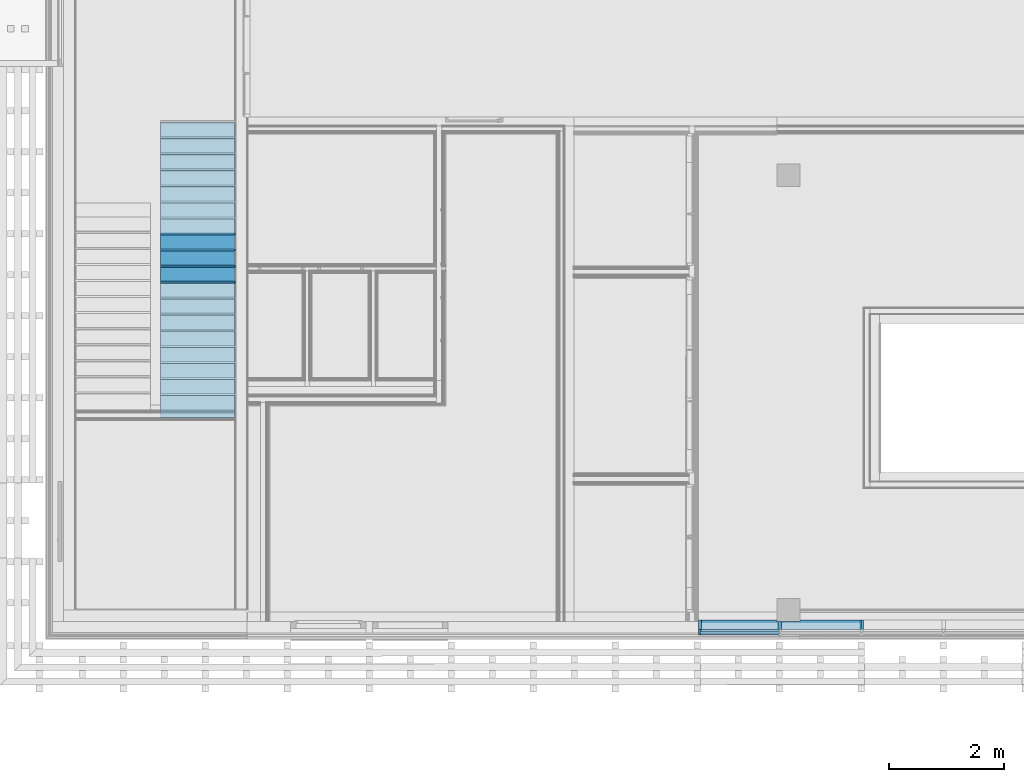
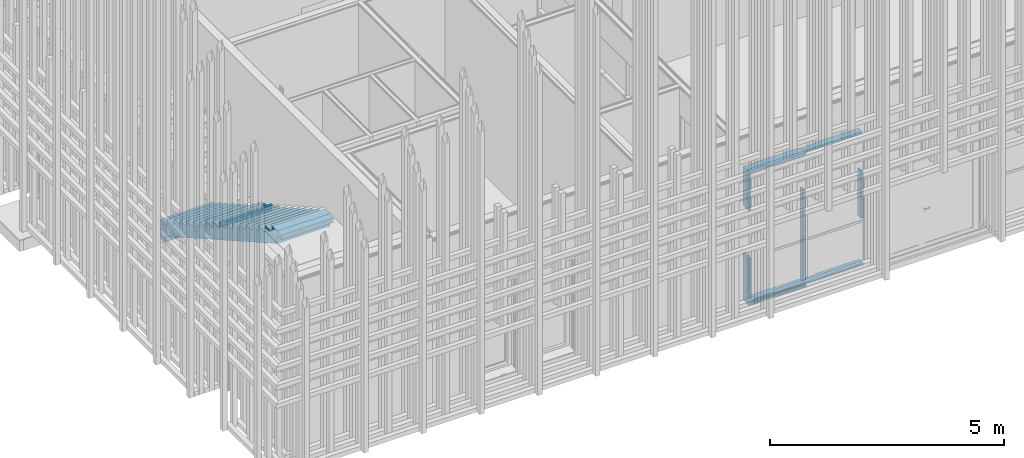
# One storey, part 77 of 260: 21 members, 3 elements without a shape of their own.
"""IFC2X3 building model written with IfcOpenShell, lengths in millimetres."""

from ifc_helpers import new_model, entity, si_unit, converted_unit, derived_unit, money_unit, direction, frame, origin_with_axes, place, context, subcontext, project, spatial, faceted_brep, material, type_object, element, aggregate, save


model = new_model("IFC2X3")

# Units and contexts
model_context = context("Model", 3, precision=0.01, world=origin_with_axes(), true_north=direction((0.0, 1.0)))
body_context = subcontext(model_context, "Body", "Model", "MODEL_VIEW")
ifc_project = project(units=[si_unit("LENGTHUNIT", "METRE", prefix="MILLI"), si_unit("AREAUNIT", "SQUARE_METRE"), si_unit("VOLUMEUNIT", "CUBIC_METRE"), converted_unit("PLANEANGLEUNIT", "DEGREE", entity("IfcPlaneAngleMeasure", 0.0174532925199), si_unit("PLANEANGLEUNIT", "RADIAN"), dimensions=[0, 0, 0, 0, 0, 0, 0]), money_unit("EUR"), converted_unit("TIMEUNIT", "Year", entity("IfcTimeMeasure", 31556926.0), si_unit("TIMEUNIT", "SECOND"), dimensions=[0, 0, 1, 0, 0, 0, 0]), si_unit("MASSUNIT", "GRAM", prefix="KILO"), si_unit("THERMODYNAMICTEMPERATUREUNIT", "DEGREE_CELSIUS"), si_unit("LUMINOUSINTENSITYUNIT", "LUMEN"), si_unit("ENERGYUNIT", "JOULE", prefix="MEGA"), derived_unit("THERMALCONDUCTANCEUNIT", [(si_unit("POWERUNIT", "WATT"), 1), (si_unit("LENGTHUNIT", "METRE"), -1), (si_unit("THERMODYNAMICTEMPERATUREUNIT", "KELVIN"), -1)]), derived_unit("SPECIFICHEATCAPACITYUNIT", [(si_unit("ENERGYUNIT", "JOULE"), 1), (si_unit("MASSUNIT", "GRAM", prefix="KILO"), -1), (si_unit("THERMODYNAMICTEMPERATUREUNIT", "KELVIN"), -1)]), derived_unit("MASSDENSITYUNIT", [(si_unit("MASSUNIT", "GRAM", prefix="KILO"), 1), (si_unit("VOLUMEUNIT", "CUBIC_METRE"), -1)])], contexts=[model_context])

# Site, building, storey
site_placement = place(None, origin_with_axes())
site = spatial("IfcSite", under=ifc_project, at=site_placement, Name="Kolde pst 67a", CompositionType="ELEMENT")
building_placement = place(site_placement, origin_with_axes())
building = spatial("IfcBuilding", under=site, at=building_placement, Name="Riigigümnaasium", CompositionType="ELEMENT")
storey_placement = place(building_placement, origin_with_axes())
storey = spatial("IfcBuildingStorey", under=building, at=storey_placement, Name="1. korrus", CompositionType="ELEMENT", Elevation=0.0)

# Stair, members
stair_placement = place(storey_placement, frame((1729.94042366, 56770.1026666, 0.0), z_axis=(0.0, 0.0, 1.0), x_axis=(1.0, 0.0, 0.0)))
stair = element("IfcStair", 1, at=stair_placement, inside=storey, Name="TREPP", ShapeType="NOTDEFINED")
ifc_material_1 = material(Name="_KANDETARIND - raudbetoon C25/30 vastavalt EK osale")
member_type_1 = type_object("IfcMemberType", Name="IfcMember", PredefinedType="USERDEFINED")
member_1_placement = place(stair_placement, origin_with_axes())
member_1 = element("IfcMember", 2, at=member_1_placement, type_object=member_type_1, material=ifc_material_1, Name="TT KONSTRUKTSIOON - 012", ObjectType="Stair Structure", context=body_context, shape_type="Brep", body=[
    faceted_brep([(1300.0, -5180.0, 2705.0), (1300.0, -5020.0, 2705.0), (1300.0, -5020.0, 2509.35204489), (1300.0, -4946.66666667, 2467.8110396), (1300.0, -4853.33333333, 2414.94066923), (1300.0, -4760.0, 2362.07029886), (1300.0, -4666.66666667, 2309.19992849), (1300.0, -4573.33333333, 2256.32955812), (1300.0, -4480.0, 2203.45918775), (1300.0, -4386.66666667, 2150.58881738), (1300.0, -4293.33333333, 2097.71844701), (1300.0, -4200.0, 2044.84807664), (1300.0, -4106.66666667, 1991.97770627), (1300.0, -4013.33333333, 1939.1073359), (1300.0, -3920.0, 1886.23696552), (1300.0, -3826.66666667, 1833.36659515), (1300.0, -3733.33333333, 1780.49622478), (1300.0, -3640.0, 1727.62585441), (1300.0, -3546.66666667, 1674.75548404), (1300.0, -3453.33333333, 1621.88511367), (1300.0, -3360.0, 1569.0147433), (1300.0, -3266.66666667, 1516.14437293), (1300.0, -3173.33333333, 1463.27400256), (1300.0, -3080.0, 1410.40363219), (1300.0, -2986.66666667, 1357.53326182), (1300.0, -2893.33333333, 1304.66289145), (1300.0, -2800.0, 1251.79252108), (1300.0, -2706.66666667, 1198.92215071), (1300.0, -2613.33333333, 1146.05178034), (1300.0, -2520.0, 1093.18140997), (1300.0, -2426.66666667, 1040.3110396), (1300.0, -2333.33333333, 987.440669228), (1300.0, -2240.0, 934.570298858), (1300.0, -2146.66666667, 881.699928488), (1300.0, -2053.33333333, 828.829558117), (1300.0, -1960.0, 775.959187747), (1300.0, -1866.66666667, 723.088817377), (1300.0, -1773.33333333, 670.218447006), (1300.0, -1680.0, 617.348076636), (1300.0, -1586.66666667, 564.477706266), (1300.0, -1493.33333333, 511.607335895), (1300.0, -1400.0, 458.736965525), (1300.0, -1306.66666667, 405.866595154), (1300.0, -1213.33333333, 352.996224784), (1300.0, -1120.0, 300.125854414), (1300.0, -1026.66666667, 247.255484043), (1300.0, -933.333333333, 194.385113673), (1300.0, -840.0, 141.514743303), (1300.0, -746.666666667, 88.6443729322), (1300.0, -653.333333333, 35.7740025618), (1300.0, -560.0, -17.0963678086), (1300.0, -466.666666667, -69.9667381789), (1300.0, -373.333333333, -122.837108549), (1300.0, -280.0, -175.70747892), (1300.0, -230.0, -204.030891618), (1300.0, -230.0, -360.0), (1300.0, -30.0, -360.0), (1300.0, -30.0, 128.611111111), (1300.0, -310.0, 128.611111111), (1300.0, -310.0, 287.222222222), (1300.0, -590.0, 287.222222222), (1300.0, -590.0, 445.833333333), (1300.0, -870.0, 445.833333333), (1300.0, -870.0, 604.444444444), (1300.0, -1150.0, 604.444444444), (1300.0, -1150.0, 763.055555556), (1300.0, -1430.0, 763.055555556), (1300.0, -1430.0, 921.666666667), (1300.0, -1710.0, 921.666666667), (1300.0, -1710.0, 1080.27777778), (1300.0, -1990.0, 1080.27777778), (1300.0, -1990.0, 1238.88888889), (1300.0, -2270.0, 1238.88888889), (1300.0, -2270.0, 1397.5), (1300.0, -2550.0, 1397.5), (1300.0, -2550.0, 1556.11111111), (1300.0, -2830.0, 1556.11111111), (1300.0, -2830.0, 1714.72222222), (1300.0, -3110.0, 1714.72222222), (1300.0, -3110.0, 1873.33333333), (1300.0, -3390.0, 1873.33333333), (1300.0, -3390.0, 2031.94444444), (1300.0, -3670.0, 2031.94444444), (1300.0, -3670.0, 2190.55555556), (1300.0, -3950.0, 2190.55555556), (1300.0, -3950.0, 2349.16666667), (1300.0, -4230.0, 2349.16666667), (1300.0, -4230.0, 2507.77777778), (1300.0, -4510.0, 2507.77777778), (1300.0, -4510.0, 2666.38888889), (1300.0, -4790.0, 2666.38888889), (1300.0, -4790.0, 2825.0), (1300.0, -5180.0, 2825.0), (0.0, -5020.0, 2705.0), (0.0, -5180.0, 2705.0), (0.0, -5020.0, 2509.35204489), (0.0, -4946.66666667, 2467.8110396), (0.0, -4853.33333333, 2414.94066923), (0.0, -4760.0, 2362.07029886), (0.0, -4666.66666667, 2309.19992849), (0.0, -4573.33333333, 2256.32955812), (0.0, -4480.0, 2203.45918775), (0.0, -4386.66666667, 2150.58881738), (0.0, -4293.33333333, 2097.71844701), (0.0, -4200.0, 2044.84807664), (0.0, -4106.66666667, 1991.97770627), (0.0, -4013.33333333, 1939.1073359), (0.0, -3920.0, 1886.23696552), (0.0, -3826.66666667, 1833.36659515), (0.0, -3733.33333333, 1780.49622478), (0.0, -3640.0, 1727.62585441), (0.0, -3546.66666667, 1674.75548404), (0.0, -3453.33333333, 1621.88511367), (0.0, -3360.0, 1569.0147433), (0.0, -3266.66666667, 1516.14437293), (0.0, -3173.33333333, 1463.27400256), (0.0, -3080.0, 1410.40363219), (0.0, -2986.66666667, 1357.53326182), (0.0, -2893.33333333, 1304.66289145), (0.0, -2800.0, 1251.79252108), (0.0, -2706.66666667, 1198.92215071), (0.0, -2613.33333333, 1146.05178034), (0.0, -2520.0, 1093.18140997), (0.0, -2426.66666667, 1040.3110396), (0.0, -2333.33333333, 987.440669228), (0.0, -2240.0, 934.570298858), (0.0, -2146.66666667, 881.699928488), (0.0, -2053.33333333, 828.829558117), (0.0, -1960.0, 775.959187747), (0.0, -1866.66666667, 723.088817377), (0.0, -1773.33333333, 670.218447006), (0.0, -1680.0, 617.348076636), (0.0, -1586.66666667, 564.477706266), (0.0, -1493.33333333, 511.607335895), (0.0, -1400.0, 458.736965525), (0.0, -1306.66666667, 405.866595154), (0.0, -1213.33333333, 352.996224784), (0.0, -1120.0, 300.125854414), (0.0, -1026.66666667, 247.255484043), (0.0, -933.333333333, 194.385113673), (0.0, -840.0, 141.514743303), (0.0, -746.666666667, 88.6443729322), (0.0, -653.333333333, 35.7740025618), (0.0, -560.0, -17.0963678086), (0.0, -466.666666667, -69.9667381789), (0.0, -373.333333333, -122.837108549), (0.0, -280.0, -175.70747892), (0.0, -230.0, -204.030891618), (0.0, -230.0, -360.0), (0.0, -30.0, -360.0), (0.0, -30.0, 128.611111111), (0.0, -310.0, 128.611111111), (0.0, -310.0, 287.222222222), (0.0, -590.0, 287.222222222), (0.0, -590.0, 445.833333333), (0.0, -870.0, 445.833333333), (0.0, -870.0, 604.444444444), (0.0, -1150.0, 604.444444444), (0.0, -1150.0, 763.055555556), (0.0, -1430.0, 763.055555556), (0.0, -1430.0, 921.666666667), (0.0, -1710.0, 921.666666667), (0.0, -1710.0, 1080.27777778), (0.0, -1990.0, 1080.27777778), (0.0, -1990.0, 1238.88888889), (0.0, -2270.0, 1238.88888889), (0.0, -2270.0, 1397.5), (0.0, -2550.0, 1397.5), (0.0, -2550.0, 1556.11111111), (0.0, -2830.0, 1556.11111111), (0.0, -2830.0, 1714.72222222), (0.0, -3110.0, 1714.72222222), (0.0, -3110.0, 1873.33333333), (0.0, -3390.0, 1873.33333333), (0.0, -3390.0, 2031.94444444), (0.0, -3670.0, 2031.94444444), (0.0, -3670.0, 2190.55555556), (0.0, -3950.0, 2190.55555556), (0.0, -3950.0, 2349.16666667), (0.0, -4230.0, 2349.16666667), (0.0, -4230.0, 2507.77777778), (0.0, -4510.0, 2507.77777778), (0.0, -4510.0, 2666.38888889), (0.0, -4790.0, 2666.38888889), (0.0, -4790.0, 2825.0), (0.0, -5180.0, 2825.0)], [[[0, 1, 2, 3, 4, 5, 6, 7, 8, 9, 10, 11, 12, 13, 14, 15, 16, 17, 18, 19, 20, 21, 22, 23, 24, 25, 26, 27, 28, 29, 30, 31, 32, 33, 34, 35, 36, 37, 38, 39, 40, 41, 42, 43, 44, 45, 46, 47, 48, 49, 50, 51, 52, 53, 54, 55, 56, 57, 58, 59, 60, 61, 62, 63, 64, 65, 66, 67, 68, 69, 70, 71, 72, 73, 74, 75, 76, 77, 78, 79, 80, 81, 82, 83, 84, 85, 86, 87, 88, 89, 90, 91, 92]], [[93, 1, 0, 94]], [[95, 2, 1, 93]], [[3, 2, 95, 96]], [[3, 96, 97, 4]], [[4, 97, 98, 5]], [[5, 98, 99, 6]], [[6, 99, 100, 7]], [[7, 100, 101, 8]], [[8, 101, 102, 9]], [[9, 102, 103, 10]], [[10, 103, 104, 11]], [[11, 104, 105, 12]], [[12, 105, 106, 13]], [[13, 106, 107, 14]], [[14, 107, 108, 15]], [[15, 108, 109, 16]], [[16, 109, 110, 17]], [[17, 110, 111, 18]], [[18, 111, 112, 19]], [[19, 112, 113, 20]], [[20, 113, 114, 21]], [[21, 114, 115, 22]], [[22, 115, 116, 23]], [[23, 116, 117, 24]], [[24, 117, 118, 25]], [[25, 118, 119, 26]], [[26, 119, 120, 27]], [[27, 120, 121, 28]], [[28, 121, 122, 29]], [[29, 122, 123, 30]], [[30, 123, 124, 31]], [[31, 124, 125, 32]], [[32, 125, 126, 33]], [[33, 126, 127, 34]], [[34, 127, 128, 35]], [[35, 128, 129, 36]], [[36, 129, 130, 37]], [[37, 130, 131, 38]], [[38, 131, 132, 39]], [[39, 132, 133, 40]], [[40, 133, 134, 41]], [[41, 134, 135, 42]], [[42, 135, 136, 43]], [[43, 136, 137, 44]], [[44, 137, 138, 45]], [[45, 138, 139, 46]], [[46, 139, 140, 47]], [[47, 140, 141, 48]], [[48, 141, 142, 49]], [[49, 142, 143, 50]], [[50, 143, 144, 51]], [[51, 144, 145, 52]], [[52, 145, 146, 53]], [[146, 147, 54, 53]], [[55, 54, 147, 148]], [[149, 56, 55, 148]], [[149, 150, 57, 56]], [[150, 151, 58, 57]], [[152, 59, 58, 151]], [[152, 153, 60, 59]], [[154, 61, 60, 153]], [[154, 155, 62, 61]], [[156, 63, 62, 155]], [[156, 157, 64, 63]], [[158, 65, 64, 157]], [[158, 159, 66, 65]], [[160, 67, 66, 159]], [[160, 161, 68, 67]], [[162, 69, 68, 161]], [[162, 163, 70, 69]], [[164, 71, 70, 163]], [[164, 165, 72, 71]], [[166, 73, 72, 165]], [[166, 167, 74, 73]], [[168, 75, 74, 167]], [[168, 169, 76, 75]], [[170, 77, 76, 169]], [[170, 171, 78, 77]], [[172, 79, 78, 171]], [[172, 173, 80, 79]], [[174, 81, 80, 173]], [[174, 175, 82, 81]], [[176, 83, 82, 175]], [[176, 177, 84, 83]], [[178, 85, 84, 177]], [[178, 179, 86, 85]], [[180, 87, 86, 179]], [[180, 181, 88, 87]], [[182, 89, 88, 181]], [[182, 183, 90, 89]], [[91, 90, 183, 184]], [[91, 184, 185, 92]], [[185, 94, 0, 92]], [[95, 93, 94, 185, 184, 183, 182, 181, 180, 179, 178, 177, 176, 175, 174, 173, 172, 171, 170, 169, 168, 167, 166, 165, 164, 163, 162, 161, 160, 159, 158, 157, 156, 155, 154, 153, 152, 151, 150, 149, 148, 147, 146, 145, 144, 143, 142, 141, 140, 139, 138, 137, 136, 135, 134, 133, 132, 131, 130, 129, 128, 127, 126, 125, 124, 123, 122, 121, 120, 119, 118, 117, 116, 115, 114, 113, 112, 111, 110, 109, 108, 107, 106, 105, 104, 103, 102, 101, 100, 99, 98, 97, 96]]]),
])
ifc_material_2 = material(Name="_VIIMISTLUSKIHT - viimistlus vastavalt SA osale")
member_type_2 = type_object("IfcMemberType", Name="IfcMember", PredefinedType="USERDEFINED")
member_2_placement = place(stair_placement, frame((650.0, -1960.0, 1238.88888889), z_axis=(0.0, 0.0, 1.0), x_axis=(-1.0, 0.0, 0.0)))
member_2 = element("IfcMember", 3, at=member_2_placement, type_object=member_type_2, material=ifc_material_2, Name="TV TÕUS - 183", ObjectType="Stair Riser", context=body_context, shape_type="Brep", body=[
    faceted_brep([(650.0, 0.0, 0.0), (650.0, 30.0, 0.0), (-650.0, 30.0, 0.0), (-650.0, 0.0, 0.0), (650.0, 0.0, -128.611111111), (650.0, 30.0, -128.611111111), (-650.0, 30.0, -128.611111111), (-650.0, 0.0, -128.611111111)], [[[0, 1, 2, 3]], [[0, 4, 5, 1]], [[1, 5, 6, 2]], [[3, 2, 6, 7]], [[4, 0, 3, 7]], [[5, 4, 7, 6]]]),
])
member_3_placement = place(stair_placement, frame((650.0, -2240.0, 1397.5), z_axis=(0.0, 0.0, 1.0), x_axis=(-1.0, 0.0, 0.0)))
member_3 = element("IfcMember", 4, at=member_3_placement, type_object=member_type_2, material=ifc_material_2, Name="TV TÕUS - 184", ObjectType="Stair Riser", context=body_context, shape_type="Brep", body=[
    faceted_brep([(650.0, 0.0, 0.0), (650.0, 30.0, 0.0), (-650.0, 30.0, 0.0), (-650.0, 0.0, 0.0), (650.0, 0.0, -128.611111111), (650.0, 30.0, -128.611111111), (-650.0, 30.0, -128.611111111), (-650.0, 0.0, -128.611111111)], [[[0, 1, 2, 3]], [[0, 4, 5, 1]], [[1, 5, 6, 2]], [[3, 2, 6, 7]], [[4, 0, 3, 7]], [[5, 4, 7, 6]]]),
])
member_4_placement = place(stair_placement, frame((650.0, -2520.0, 1556.11111111), z_axis=(0.0, 0.0, 1.0), x_axis=(-1.0, 0.0, 0.0)))
member_4 = element("IfcMember", 5, at=member_4_placement, type_object=member_type_2, material=ifc_material_2, Name="TV TÕUS - 185", ObjectType="Stair Riser", context=body_context, shape_type="Brep", body=[
    faceted_brep([(650.0, 0.0, 0.0), (650.0, 30.0, 0.0), (-650.0, 30.0, 0.0), (-650.0, 0.0, 0.0), (650.0, 0.0, -128.611111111), (650.0, 30.0, -128.611111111), (-650.0, 30.0, -128.611111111), (-650.0, 0.0, -128.611111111)], [[[0, 1, 2, 3]], [[0, 4, 5, 1]], [[1, 5, 6, 2]], [[3, 2, 6, 7]], [[4, 0, 3, 7]], [[5, 4, 7, 6]]]),
])
member_5_placement = place(stair_placement, frame((650.0, -2800.0, 1714.72222222), z_axis=(0.0, 0.0, 1.0), x_axis=(-1.0, 0.0, 0.0)))
member_5 = element("IfcMember", 6, at=member_5_placement, type_object=member_type_2, material=ifc_material_2, Name="TV TÕUS - 186", ObjectType="Stair Riser", context=body_context, shape_type="Brep", body=[
    faceted_brep([(650.0, 0.0, 0.0), (650.0, 30.0, 0.0), (-650.0, 30.0, 0.0), (-650.0, 0.0, 0.0), (650.0, 0.0, -128.611111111), (650.0, 30.0, -128.611111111), (-650.0, 30.0, -128.611111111), (-650.0, 0.0, -128.611111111)], [[[0, 1, 2, 3]], [[0, 4, 5, 1]], [[1, 5, 6, 2]], [[3, 2, 6, 7]], [[4, 0, 3, 7]], [[5, 4, 7, 6]]]),
])
member_type_3 = type_object("IfcMemberType", Name="IfcMember", PredefinedType="USERDEFINED")
member_6_placement = place(stair_placement, frame((650.0, -1960.0, 1268.88888889), z_axis=(0.0, 0.0, 1.0), x_axis=(-1.0, 0.0, 0.0)))
member_6 = element("IfcMember", 7, at=member_6_placement, type_object=member_type_3, material=ifc_material_2, Name="TV ASTE - 184", ObjectType="Stair Tread", context=body_context, shape_type="Brep", body=[
    faceted_brep([(-650.0, 0.0, -30.0), (650.0, 0.0, -30.0), (650.0, 0.0, 0.0), (-650.0, 0.0, 0.0), (-650.0, 310.0, -30.0), (650.0, 310.0, -30.0), (650.0, 310.0, 0.0), (-650.0, 310.0, 0.0)], [[[0, 1, 2, 3]], [[0, 4, 5, 1]], [[1, 5, 6, 2]], [[3, 2, 6, 7]], [[4, 0, 3, 7]], [[5, 4, 7, 6]]]),
])
member_7_placement = place(stair_placement, frame((650.0, -2240.0, 1427.5), z_axis=(0.0, 0.0, 1.0), x_axis=(-1.0, 0.0, 0.0)))
member_7 = element("IfcMember", 8, at=member_7_placement, type_object=member_type_3, material=ifc_material_2, Name="TV ASTE - 185", ObjectType="Stair Tread", context=body_context, shape_type="Brep", body=[
    faceted_brep([(-650.0, 0.0, -30.0), (650.0, 0.0, -30.0), (650.0, 0.0, 0.0), (-650.0, 0.0, 0.0), (-650.0, 310.0, -30.0), (650.0, 310.0, -30.0), (650.0, 310.0, 0.0), (-650.0, 310.0, 0.0)], [[[0, 1, 2, 3]], [[0, 4, 5, 1]], [[1, 5, 6, 2]], [[3, 2, 6, 7]], [[4, 0, 3, 7]], [[5, 4, 7, 6]]]),
])
member_8_placement = place(stair_placement, frame((650.0, -2520.0, 1586.11111111), z_axis=(0.0, 0.0, 1.0), x_axis=(-1.0, 0.0, 0.0)))
member_8 = element("IfcMember", 9, at=member_8_placement, type_object=member_type_3, material=ifc_material_2, Name="TV ASTE - 186", ObjectType="Stair Tread", context=body_context, shape_type="Brep", body=[
    faceted_brep([(-650.0, 0.0, -30.0), (650.0, 0.0, -30.0), (650.0, 0.0, 0.0), (-650.0, 0.0, 0.0), (-650.0, 310.0, -30.0), (650.0, 310.0, -30.0), (650.0, 310.0, 0.0), (-650.0, 310.0, 0.0)], [[[0, 1, 2, 3]], [[0, 4, 5, 1]], [[1, 5, 6, 2]], [[3, 2, 6, 7]], [[4, 0, 3, 7]], [[5, 4, 7, 6]]]),
])
aggregate(stair, [member_1, member_2, member_3, member_4, member_5, member_6, member_7, member_8])

# Curtain wall, members
curtain_wall_type = type_object("IfcCurtainWallType", Name="Curtain Wall Type", PredefinedType="NOTDEFINED")
curtain_wall_1_placement = place(storey_placement, frame((20393.1746439, 47839.7660528, -0.000116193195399), z_axis=(0.0, 0.0, 1.0), x_axis=(1.0, 0.0, 0.0)))
curtain_wall_1 = element("IfcCurtainWall", 10, at=curtain_wall_1_placement, inside=storey, type_object=curtain_wall_type, Name="KLAASFASSAAD")
ifc_material_3 = material(Name="_METALL - alumiinium")
member_type_4 = type_object("IfcMemberType", Name="Boundary Frame 50 x 100", PredefinedType="MEMBER")
member_9_placement = place(curtain_wall_1_placement, frame((-9284.79434148, 0.0, 0.0), z_axis=(0.0, 0.0, 1.0), x_axis=(1.0, 0.0, 0.0)))
member_9 = element("IfcMember", 11, at=member_9_placement, type_object=member_type_4, material=ifc_material_3, Name="RF RAAM SERV-709", ObjectType="MEMBER", context=body_context, shape_type="Brep", body=[
    faceted_brep([(30.0, 24.0, 1230.00011619), (50.0, 24.0, 1230.00011619), (50.0, 60.0, 1230.00011619), (0.0, 60.0, 1230.00011619), (0.0, -40.0, 1230.00011619), (50.0, -40.0, 1230.00011619), (50.0, -24.0, 1230.00011619), (30.0, -24.0, 1230.00011619), (30.0, 24.0, 30.0), (50.0, 24.0, 50.0), (50.0, 60.0, 50.0), (0.0, 60.0, 0.0), (0.0, -40.0, 0.0), (50.0, -40.0, 50.0), (50.0, -24.0, 50.0), (30.0, -24.0, 30.0)], [[[0, 1, 2, 3, 4, 5, 6, 7]], [[0, 8, 9, 1]], [[9, 10, 2, 1]], [[2, 10, 11, 3]], [[3, 11, 12, 4]], [[4, 12, 13, 5]], [[6, 5, 13, 14]], [[14, 15, 7, 6]], [[7, 15, 8, 0]], [[8, 15, 14, 13, 12, 11, 10, 9]]]),
])
member_10_placement = place(curtain_wall_1_placement, frame((-7865.0, 0.0, 0.0), z_axis=(-1.0, 0.0, 0.0), x_axis=(0.0, 0.0, 1.0)))
member_10 = element("IfcMember", 12, at=member_10_placement, type_object=member_type_4, material=ifc_material_3, Name="RF RAAM SERV-708", ObjectType="MEMBER", context=body_context, shape_type="Brep", body=[
    faceted_brep([(30.0, 24.0, 1389.79434148), (50.0, 24.0, 1369.79434148), (50.0, 60.0, 1369.79434148), (0.0, 60.0, 1419.79434148), (0.0, -40.0, 1419.79434148), (50.0, -40.0, 1369.79434148), (50.0, -24.0, 1369.79434148), (30.0, -24.0, 1389.79434148), (30.0, 24.0, 0.0), (50.0, 24.0, 0.0), (50.0, 60.0, 0.0), (0.0, 60.0, 0.0), (0.0, -40.0, 0.0), (50.0, -40.0, 0.0), (50.0, -24.0, 0.0), (30.0, -24.0, 0.0)], [[[0, 1, 2, 3, 4, 5, 6, 7]], [[0, 8, 9, 1]], [[9, 10, 2, 1]], [[10, 11, 3, 2]], [[11, 12, 4, 3]], [[12, 13, 5, 4]], [[6, 5, 13, 14]], [[14, 15, 7, 6]], [[7, 15, 8, 0]], [[8, 15, 14, 13, 12, 11, 10, 9]]]),
])
member_11_placement = place(curtain_wall_1_placement, frame((-9284.79434148, 0.0, 3490.00018031), z_axis=(1.0, 0.0, 2.1733154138e-08), x_axis=(2.1733154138e-08, 0.0, -1.0)))
member_11 = element("IfcMember", 13, at=member_11_placement, type_object=member_type_4, material=ifc_material_3, Name="RF RAAM SERV-712", ObjectType="MEMBER", context=body_context, shape_type="Brep", body=[
    faceted_brep([(30.0000308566, 24.0, 1419.79434137), (50.0000308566, 24.0, 1419.79434094), (50.0000308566, 60.0, 1419.79434094), (3.08566092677e-05, 60.0, 1419.79434202), (3.08566092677e-05, -40.0, 1419.79434202), (50.0000308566, -40.0, 1419.79434094), (50.0000308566, -24.0, 1419.79434094), (30.0000308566, -24.0, 1419.79434137), (30.000000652, 24.0, 29.999998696), (50.0000010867, 24.0, 49.9999978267), (50.0000010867, 60.0, 49.9999978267), (0.0, 60.0, 0.0), (0.0, -40.0, 0.0), (50.0000010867, -40.0, 49.9999978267), (50.0000010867, -24.0, 49.9999978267), (30.000000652, -24.0, 29.999998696)], [[[0, 1, 2, 3, 4, 5, 6, 7]], [[0, 8, 9, 1]], [[9, 10, 2, 1]], [[2, 10, 11, 3]], [[3, 11, 12, 4]], [[4, 12, 13, 5]], [[6, 5, 13, 14]], [[14, 15, 7, 6]], [[7, 15, 8, 0]], [[8, 15, 14, 13, 12, 11, 10, 9]]]),
])
member_12_placement = place(curtain_wall_1_placement, frame((-9284.79434148, 0.0, 2460.00011619), z_axis=(0.0, 0.0, 1.0), x_axis=(1.0, 0.0, 0.0)))
member_12 = element("IfcMember", 14, at=member_12_placement, type_object=member_type_4, material=ifc_material_3, Name="RF RAAM SERV-711", ObjectType="MEMBER", context=body_context, shape_type="Brep", body=[
    faceted_brep([(30.0, 24.0, 1000.00006477), (50.0, 24.0, 980.000065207), (50.0, 60.0, 980.000065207), (0.0, 60.0, 1030.00006412), (0.0, -40.0, 1030.00006412), (50.0, -40.0, 980.000065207), (50.0, -24.0, 980.000065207), (30.0, -24.0, 1000.00006477), (30.0, 24.0, 0.0), (50.0, 24.0, 0.0), (50.0, 60.0, 0.0), (0.0, 60.0, 0.0), (0.0, -40.0, 0.0), (50.0, -40.0, 0.0), (50.0, -24.0, 0.0), (30.0, -24.0, 0.0)], [[[0, 1, 2, 3, 4, 5, 6, 7]], [[0, 8, 9, 1]], [[9, 10, 2, 1]], [[10, 11, 3, 2]], [[11, 12, 4, 3]], [[12, 13, 5, 4]], [[6, 5, 13, 14]], [[14, 15, 7, 6]], [[7, 15, 8, 0]], [[8, 15, 14, 13, 12, 11, 10, 9]]]),
])
aggregate(curtain_wall_1, [member_9, member_10, member_11, member_12])

curtain_wall_2_placement = place(storey_placement, frame((20393.1747334, 47899.7660528, -0.000116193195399), z_axis=(0.0, 0.0, 1.0), x_axis=(1.0, 0.0, 0.0)))
curtain_wall_2 = element("IfcCurtainWall", 15, at=curtain_wall_2_placement, inside=storey, type_object=curtain_wall_type, Name="Klaasfassaadi puitkarkass")
ifc_material_4 = material(Name="_KANDETARIND - liimpuit vastavalt EK osale")
member_type_5 = type_object("IfcMemberType", Name="Boundary Frame 60 x 160", PredefinedType="MEMBER")
member_13_placement = place(curtain_wall_2_placement, frame((-6435.0, 0.0, 0.0), z_axis=(-1.0, 0.0, 0.0), x_axis=(0.0, 0.0, 1.0)))
member_13 = element("IfcMember", 16, at=member_13_placement, type_object=member_type_5, material=ifc_material_4, Name="RF RAAM SERV-620", ObjectType="MEMBER", context=body_context, shape_type="Brep", body=[
    faceted_brep([(0.000116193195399, 160.0, 1078.17851722), (60.0, 160.0, 1078.17851722), (60.0, 160.0, -30.0), (0.0, 160.0, -30.0), (60.0, 139.983201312, 1078.17851722), (0.000116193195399, 139.983201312, 1078.17851722), (60.0, 139.983201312, 1430.0), (60.0, 0.0, 1430.0), (60.0, 0.0, -30.0), (0.0, 0.0, -30.0), (0.0, 0.0, 1430.0), (0.000116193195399, 139.983201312, 1430.0)], [[[0, 1, 2, 3]], [[4, 1, 0, 5]], [[4, 6, 7, 8, 2, 1]], [[3, 2, 8, 9]], [[5, 0, 3, 9, 10, 11]], [[6, 4, 5, 11]], [[6, 11, 10, 7]], [[9, 8, 7, 10]]]),
])
member_14_placement = place(curtain_wall_2_placement, frame((-9284.79434148, 0.0, 0.0), z_axis=(0.0, 0.0, 1.0), x_axis=(1.0, 0.0, 0.0)))
member_14 = element("IfcMember", 17, at=member_14_placement, type_object=member_type_5, material=ifc_material_4, Name="RF RAAM SERV-622", ObjectType="MEMBER", context=body_context, shape_type="Brep", body=[
    faceted_brep([(60.0, 0.0, 60.0), (60.0, 160.0, 60.0), (60.0, 160.0, 1230.00011619), (60.0, 0.0, 1230.00011619), (0.0, 0.0, 0.0), (0.0, 160.0, 0.0), (0.0, 160.0, 1230.00011619), (0.0, 0.0, 1230.00011619)], [[[0, 1, 2, 3]], [[1, 0, 4, 5]], [[1, 5, 6, 2]], [[2, 6, 7, 3]], [[4, 0, 3, 7]], [[5, 4, 7, 6]]]),
])
member_15_placement = place(curtain_wall_2_placement, frame((-7865.0, 0.0, 0.0), z_axis=(-1.0, 0.0, 0.0), x_axis=(0.0, 0.0, 1.0)))
member_15 = element("IfcMember", 18, at=member_15_placement, type_object=member_type_5, material=ifc_material_4, Name="RF RAAM SERV-621", ObjectType="MEMBER", context=body_context, shape_type="Brep", body=[
    faceted_brep([(0.000116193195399, 139.983201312, 0.0), (60.0, 139.983201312, 0.0), (60.0, 0.0, 0.0), (0.0, 0.0, 0.0), (60.0, 139.983201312, 48.1785172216), (0.000116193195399, 139.983201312, 48.1785172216), (60.0, 160.0, 48.1785172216), (60.0, 160.0, 1359.79434148), (60.0, 0.0, 1359.79434148), (0.0, 0.0, 1419.79434148), (0.0, 160.0, 1419.79434148), (0.000116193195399, 160.0, 48.1785172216)], [[[0, 1, 2, 3]], [[4, 1, 0, 5]], [[4, 6, 7, 8, 2, 1]], [[3, 2, 8, 9]], [[5, 0, 3, 9, 10, 11]], [[11, 6, 4, 5]], [[6, 11, 10, 7]], [[8, 7, 10, 9]]]),
])
member_16_placement = place(curtain_wall_2_placement, frame((-7865.0, 0.0, 3490.00021117), z_axis=(1.0, 0.0, 0.0), x_axis=(0.0, 0.0, -1.0)))
member_16 = element("IfcMember", 19, at=member_16_placement, type_object=member_type_5, material=ifc_material_4, Name="RF RAAM SERV-626", ObjectType="MEMBER", context=body_context, shape_type="Brep", body=[
    faceted_brep([(60.0, 160.0, 351.821482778), (0.0, 160.0, 351.821482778), (0.0, 160.0, 1430.0), (60.0, 160.0, 1430.0), (0.0, 139.983201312, 351.821482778), (60.0, 139.983201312, 351.821482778), (0.0, 139.983201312, 0.0), (0.0, 0.0, 0.0), (0.0, 0.0, 1430.0), (60.0, 0.0, 1430.0), (60.0, 0.0, 0.0), (60.0, 139.983201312, 0.0)], [[[0, 1, 2, 3]], [[4, 1, 0, 5]], [[4, 6, 7, 8, 2, 1]], [[9, 3, 2, 8]], [[5, 0, 3, 9, 10, 11]], [[6, 4, 5, 11]], [[6, 11, 10, 7]], [[7, 10, 9, 8]]]),
])
member_17_placement = place(curtain_wall_2_placement, frame((-9284.79434148, 0.0, 3490.00018031), z_axis=(1.0, 0.0, 2.1733154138e-08), x_axis=(2.1733154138e-08, 0.0, -1.0)))
member_17 = element("IfcMember", 20, at=member_17_placement, type_object=member_type_5, material=ifc_material_4, Name="RF RAAM SERV-625", ObjectType="MEMBER", context=body_context, shape_type="Brep", body=[
    faceted_brep([(60.0000308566, 139.983201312, 1419.79434083), (3.08566092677e-05, 139.983201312, 1419.79434213), (3.08566092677e-05, 0.0, 1419.79434213), (60.0000308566, 0.0, 1419.79434083), (2.98095379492e-05, 139.983201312, 1371.61582426), (60.0000298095, 139.983201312, 1371.61582295), (2.98095379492e-05, 160.0, 1371.61582426), (0.0, 160.0, 0.0), (0.0, 0.0, 0.0), (60.000001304, 0.0, 59.999997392), (60.000001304, 160.0, 59.999997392), (60.0000298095, 160.0, 1371.61582295)], [[[0, 1, 2, 3]], [[4, 1, 0, 5]], [[4, 6, 7, 8, 2, 1]], [[2, 8, 9, 3]], [[5, 0, 3, 9, 10, 11]], [[11, 6, 4, 5]], [[6, 11, 10, 7]], [[7, 10, 9, 8]]]),
])
member_18_placement = place(curtain_wall_2_placement, frame((-9284.79434148, 0.0, 2460.00011619), z_axis=(0.0, 0.0, 1.0), x_axis=(1.0, 0.0, 0.0)))
member_18 = element("IfcMember", 21, at=member_18_placement, type_object=member_type_5, material=ifc_material_4, Name="RF RAAM SERV-624", ObjectType="MEMBER", context=body_context, shape_type="Brep", body=[
    faceted_brep([(60.0, 160.0, 0.0), (60.0, 160.0, 970.000065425), (60.0, 0.0, 970.000065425), (60.0, 0.0, 0.0), (0.0, 160.0, 0.0), (0.0, 160.0, 1030.00006412), (0.0, 0.0, 1030.00006412), (0.0, 0.0, 0.0)], [[[0, 1, 2, 3]], [[4, 5, 1, 0]], [[1, 5, 6, 2]], [[3, 2, 6, 7]], [[0, 3, 7, 4]], [[7, 6, 5, 4]]]),
])
member_type_6 = type_object("IfcMemberType", Name="Mullion Frame 60 x 160", PredefinedType="MEMBER")
member_19_placement = place(curtain_wall_2_placement, frame((-7865.0, 0.0, 0.0), z_axis=(0.0, 0.0, 1.0), x_axis=(1.0, 0.0, 0.0)))
member_19 = element("IfcMember", 22, at=member_19_placement, type_object=member_type_6, material=ifc_material_4, Name="RF RAAM VERT-351", ObjectType="MEMBER", context=body_context, shape_type="Brep", body=[
    faceted_brep([(30.0, 139.983201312, 60.0), (30.0, 139.983201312, 1230.00011619), (30.0, 0.0, 1230.00011619), (30.0, 0.0, 60.0), (-30.0, 139.983201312, 1230.00011619), (-30.0, 139.983201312, 60.0), (-30.0, 0.0, 1230.00011619), (-30.0, 0.0, 60.0)], [[[0, 1, 2, 3]], [[4, 1, 0, 5]], [[1, 4, 6, 2]], [[6, 7, 3, 2]], [[5, 0, 3, 7]], [[4, 5, 7, 6]]]),
])
member_20_placement = place(curtain_wall_2_placement, frame((-6435.0, 0.0, 1230.00011619), z_axis=(0.0, 0.0, 1.0), x_axis=(1.0, 0.0, 0.0)))
member_20 = element("IfcMember", 23, at=member_20_placement, type_object=member_type_6, material=ifc_material_4, Name="RF RAAM VERT-358", ObjectType="MEMBER", context=body_context, shape_type="Brep", body=[
    faceted_brep([(0.0, 0.0, 1230.0), (-30.0, 0.0, 1230.0), (-30.0, 0.0, 0.0), (30.0, 0.0, 0.0), (30.0, 0.0, 1200.0), (0.0, 0.0, 1200.0), (0.0, 160.0, 1230.0), (-30.0, 160.0, 1230.0), (-30.0, 160.0, 0.0), (30.0, 160.0, 0.0), (30.0, 160.0, 1200.0), (0.0, 160.0, 1200.0)], [[[0, 1, 2, 3, 4, 5]], [[6, 7, 1, 0]], [[8, 2, 1, 7]], [[8, 9, 3, 2]], [[4, 3, 9, 10]], [[10, 11, 5, 4]], [[5, 11, 6, 0]], [[11, 10, 9, 8, 7, 6]]]),
])
member_21_placement = place(curtain_wall_2_placement, frame((-7865.0, 0.0, 1230.00011619), z_axis=(0.0, 0.0, 1.0), x_axis=(1.0, 0.0, 0.0)))
member_21 = element("IfcMember", 24, at=member_21_placement, type_object=member_type_6, material=ifc_material_4, Name="RF RAAM VERT-359", ObjectType="MEMBER", context=body_context, shape_type="Brep", body=[
    faceted_brep([(30.0, 139.983201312, 0.0), (30.0, 139.983201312, 1230.0), (30.0, 0.0, 1230.0), (30.0, 0.0, 0.0), (-30.0, 139.983201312, 1230.0), (-30.0, 139.983201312, 0.0), (-30.0, 0.0, 1230.0), (-30.0, 0.0, 0.0)], [[[0, 1, 2, 3]], [[4, 1, 0, 5]], [[1, 4, 6, 2]], [[7, 3, 2, 6]], [[5, 0, 3, 7]], [[4, 5, 7, 6]]]),
])
aggregate(curtain_wall_2, [member_13, member_19, member_20, member_21, member_14, member_15, member_16, member_17, member_18])

save(model, "model.ifc")
